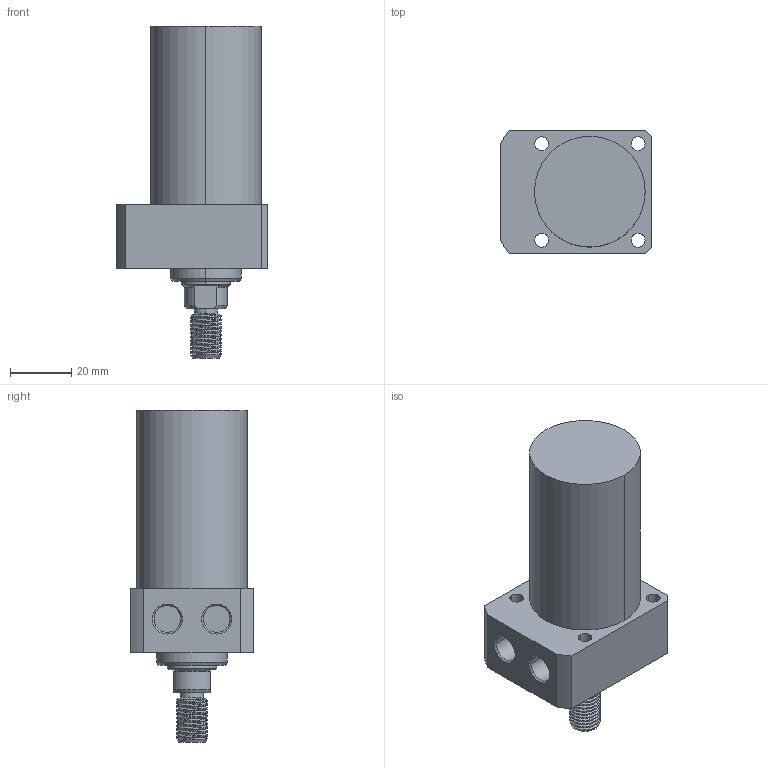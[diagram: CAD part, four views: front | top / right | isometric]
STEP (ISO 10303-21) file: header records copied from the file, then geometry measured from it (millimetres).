
FILE_DESCRIPTION((' '),'2;1');
FILE_NAME( 'TLLR-036CT-050.STEP.stp', '2025-10-24T16:35:47', (' '), ('--- Datakit www.datakit.com---'), ' Datakit CrossCadWare V2024.1 Dec 21 2023', 'Mastercam 2025', ' ');
FILE_SCHEMA(('AUTOMOTIVE_DESIGN { 1 0 10303 214 1 1 1 1 }'));
Length unit declared in the file: millimetre
Products named in the file (1): TLLR-036CT-050
Bounding box: 49 x 40 x 108 mm (x, y, z)
Volume: 101064 mm3; surface area: 17215.2 mm2
Topology: 1 solids, 1 shells, 87 faces, 290 edges, 213 vertices
Faces by surface type: cylinder 50, plane 21, cone 14, bspline 2
Entity records: 7433 total; most frequent: CARTESIAN_POINT 4814, ORIENTED_EDGE 580, DIRECTION 464, EDGE_CURVE 290, VERTEX_POINT 213, AXIS2_PLACEMENT_3D 187, EDGE_LOOP 103, CIRCLE 101
